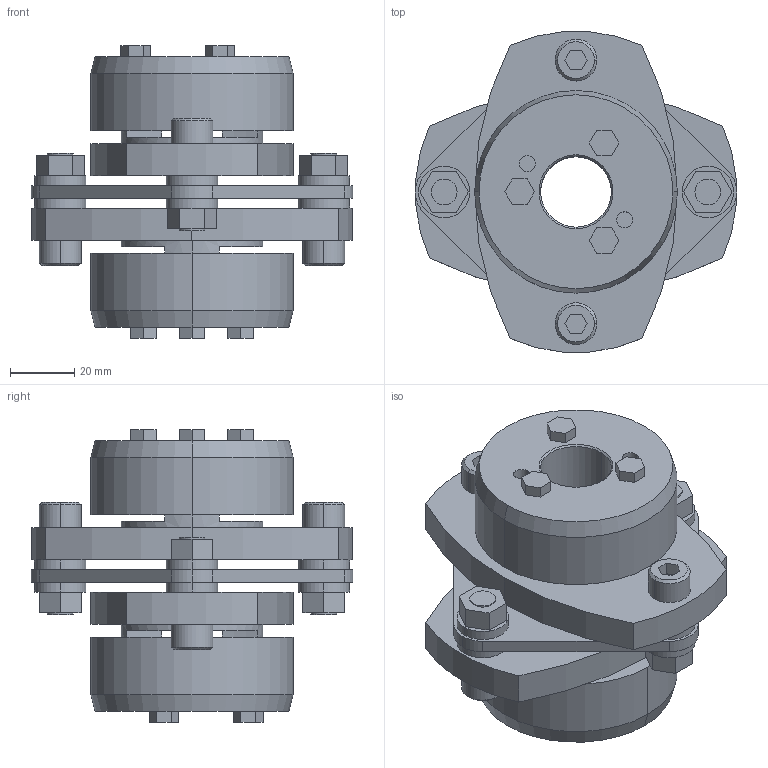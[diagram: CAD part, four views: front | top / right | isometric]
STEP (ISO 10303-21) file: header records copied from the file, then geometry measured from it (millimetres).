
FILE_DESCRIPTION((''),'2;1');
FILE_NAME('LCS-100T7-22×22.stp','2011-09-08T16:55:05',(''),(''),'AutoCAD STEP 2000i','AutoCAD 2000i',', , ');
FILE_SCHEMA(('CONFIG_CONTROL_DESIGN'));
Length unit declared in the file: millimetre
Products named in the file (5): LCS-100T7-22×22; 忣兜1; LC100T7-T022-1; LC100T7-T022; LCS100-ITA
Assembly tree (4 placements, depth 2):
  LCS-100T7-22×22
    忣兜1
    LC100T7-T022-1
    LC100T7-T022
    LCS100-ITA
Bounding box: 100 x 99.93 x 91 mm (x, y, z)
Volume: 260228.2 mm3; surface area: 63027.2 mm2
Topology: 1 solids, 1 shells, 232 faces, 568 edges, 372 vertices
Faces by surface type: plane 132, cylinder 80, cone 20
Entity records: 7035 total; most frequent: DIRECTION 1238, CARTESIAN_POINT 1177, ORIENTED_EDGE 1136, EDGE_CURVE 568, AXIS2_PLACEMENT_3D 433, VERTEX_POINT 372, VECTOR 372, LINE 372
